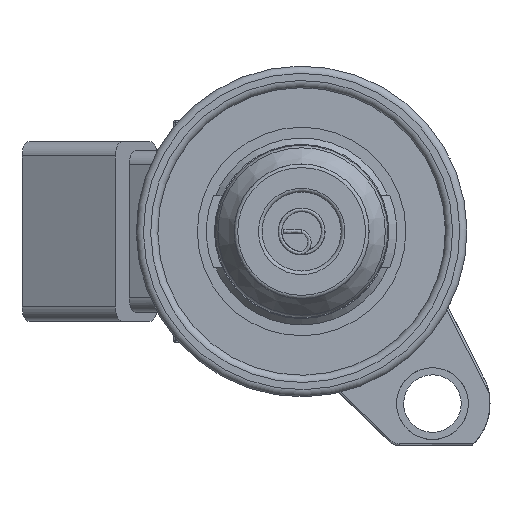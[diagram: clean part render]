
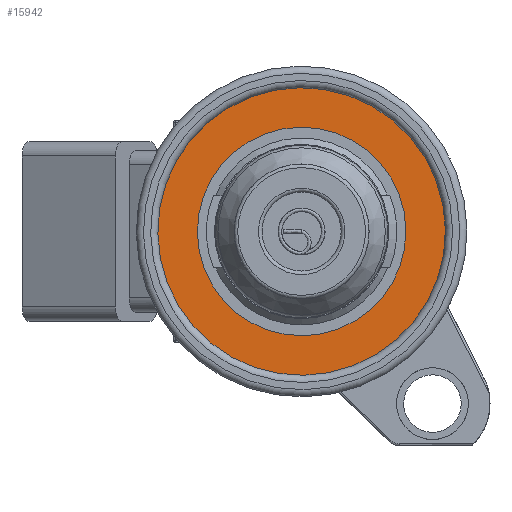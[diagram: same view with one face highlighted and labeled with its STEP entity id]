
A CAD part, front view. The second image highlights one B-rep face of the part: STEP entity #15942.
In plain terms, the highlighted planar face has unit normal (0, -1, 0) as drawn and (1, 0, 0) by its records, which use the part's own axes.
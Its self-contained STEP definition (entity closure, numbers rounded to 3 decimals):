
#921=FACE_BOUND('',#3181,.T.);
#1364=PLANE('',#17064);
#2233=FACE_OUTER_BOUND('',#3180,.T.);
#3180=EDGE_LOOP('',(#14680,#14681));
#3181=EDGE_LOOP('',(#14682,#14683));
#6311=CIRCLE('',#17062,20.9);
#6312=CIRCLE('',#17063,20.9);
#6313=CIRCLE('',#17065,14.5);
#6314=CIRCLE('',#17066,14.5);
#7868=VERTEX_POINT('',#29482);
#7869=VERTEX_POINT('',#29484);
#7870=VERTEX_POINT('',#29488);
#7871=VERTEX_POINT('',#29489);
#10164=EDGE_CURVE('',#7869,#7868,#6311,.T.);
#10165=EDGE_CURVE('',#7868,#7869,#6312,.T.);
#10166=EDGE_CURVE('',#7870,#7871,#6313,.T.);
#10167=EDGE_CURVE('',#7871,#7870,#6314,.T.);
#14680=ORIENTED_EDGE('',*,*,#10164,.T.);
#14681=ORIENTED_EDGE('',*,*,#10165,.T.);
#14682=ORIENTED_EDGE('',*,*,#10166,.F.);
#14683=ORIENTED_EDGE('',*,*,#10167,.F.);
#15942=ADVANCED_FACE('',(#2233,#921),#1364,.T.);
#17062=AXIS2_PLACEMENT_3D('',#29485,#20447,#20448);
#17063=AXIS2_PLACEMENT_3D('',#29486,#20449,#20450);
#17064=AXIS2_PLACEMENT_3D('',#29487,#20451,#20452);
#17065=AXIS2_PLACEMENT_3D('',#29490,#20453,#20454);
#17066=AXIS2_PLACEMENT_3D('',#29491,#20455,#20456);
#20447=DIRECTION('center_axis',(1.,0.,0.));
#20448=DIRECTION('ref_axis',(0.,0.,-1.));
#20449=DIRECTION('center_axis',(1.,0.,0.));
#20450=DIRECTION('ref_axis',(0.,0.,-1.));
#20451=DIRECTION('center_axis',(1.,0.,0.));
#20452=DIRECTION('ref_axis',(0.,0.,-1.));
#20453=DIRECTION('center_axis',(1.,0.,0.));
#20454=DIRECTION('ref_axis',(0.,0.,-1.));
#20455=DIRECTION('center_axis',(1.,0.,0.));
#20456=DIRECTION('ref_axis',(0.,0.,-1.));
#29482=CARTESIAN_POINT('',(3.,0.,20.9));
#29484=CARTESIAN_POINT('',(3.,0.,-20.9));
#29485=CARTESIAN_POINT('Origin',(3.,0.,0.));
#29486=CARTESIAN_POINT('Origin',(3.,0.,0.));
#29487=CARTESIAN_POINT('Origin',(3.,0.,-14.5));
#29488=CARTESIAN_POINT('',(3.,0.,-14.5));
#29489=CARTESIAN_POINT('',(3.,0.,14.5));
#29490=CARTESIAN_POINT('Origin',(3.,0.,0.));
#29491=CARTESIAN_POINT('Origin',(3.,0.,0.));
